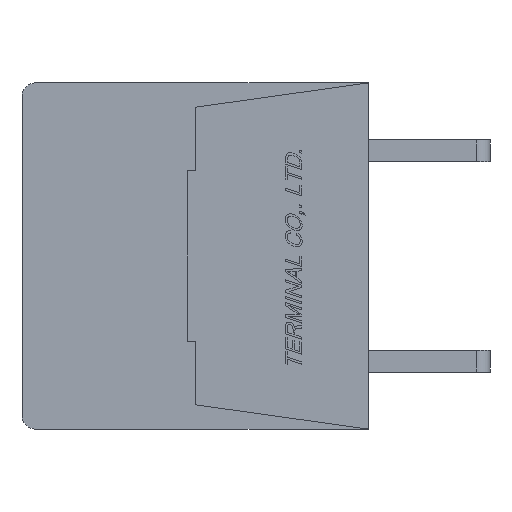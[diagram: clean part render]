
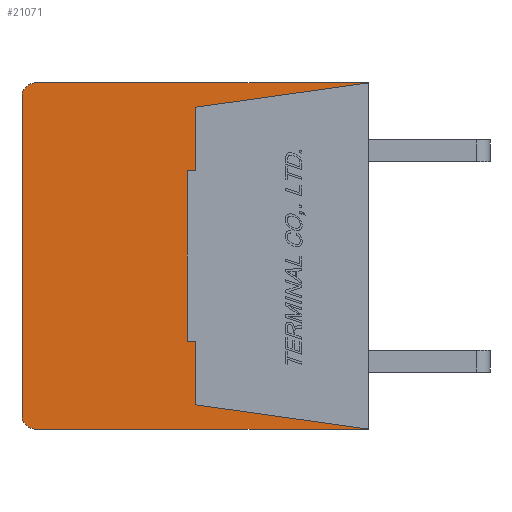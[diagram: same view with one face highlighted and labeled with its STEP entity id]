
A CAD part, left-side view. The second image highlights one B-rep face of the part: STEP entity #21071.
In plain terms, the highlighted planar face has unit normal (-1, 0, 0) as drawn and (1, 0, 0) by its records, which use the part's own axes.
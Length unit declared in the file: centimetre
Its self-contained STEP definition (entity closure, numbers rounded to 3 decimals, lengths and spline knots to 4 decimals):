
#1073=CIRCLE('',#35730,0.05);
#1074=CIRCLE('',#35731,0.05);
#1812=VERTEX_POINT('',#28837);
#1817=VERTEX_POINT('',#28850);
#1819=VERTEX_POINT('',#28856);
#1821=VERTEX_POINT('',#28862);
#1823=VERTEX_POINT('',#28868);
#1825=VERTEX_POINT('',#28874);
#1827=VERTEX_POINT('',#28880);
#1829=VERTEX_POINT('',#28886);
#2156=VERTEX_POINT('',#30340);
#2157=VERTEX_POINT('',#30342);
#2158=VERTEX_POINT('',#30344);
#2159=VERTEX_POINT('',#30346);
#4031=VECTOR('',#23905,1.);
#4034=VECTOR('',#23909,1.);
#4037=VECTOR('',#23913,1.);
#4040=VECTOR('',#23917,1.);
#4043=VECTOR('',#23921,1.);
#4046=VECTOR('',#23925,1.);
#4049=VECTOR('',#23929,1.);
#4435=VECTOR('',#24428,1.);
#4436=VECTOR('',#24431,1.);
#4437=VECTOR('',#24434,1.);
#6504=LINE('',#28855,#4031);
#6507=LINE('',#28861,#4034);
#6510=LINE('',#28867,#4037);
#6513=LINE('',#28873,#4040);
#6516=LINE('',#28879,#4043);
#6519=LINE('',#28885,#4046);
#6522=LINE('',#28890,#4049);
#6908=LINE('',#30339,#4435);
#6909=LINE('',#30343,#4436);
#6910=LINE('',#30347,#4437);
#9211=EDGE_CURVE('',#1819,#1817,#6504,.T.);
#9214=EDGE_CURVE('',#1821,#1819,#6507,.T.);
#9217=EDGE_CURVE('',#1823,#1821,#6510,.T.);
#9220=EDGE_CURVE('',#1825,#1823,#6513,.T.);
#9223=EDGE_CURVE('',#1827,#1825,#6516,.T.);
#9226=EDGE_CURVE('',#1829,#1827,#6519,.T.);
#9229=EDGE_CURVE('',#1812,#1829,#6522,.T.);
#9719=EDGE_CURVE('',#1817,#2156,#6908,.T.);
#9720=EDGE_CURVE('',#2157,#2156,#1073,.T.);
#9721=EDGE_CURVE('',#2157,#2158,#6909,.T.);
#9722=EDGE_CURVE('',#2159,#2158,#1074,.T.);
#9723=EDGE_CURVE('',#2159,#1812,#6910,.T.);
#14177=ORIENTED_EDGE('',*,*,#9211,.T.);
#14178=ORIENTED_EDGE('',*,*,#9719,.T.);
#14179=ORIENTED_EDGE('',*,*,#9720,.F.);
#14180=ORIENTED_EDGE('',*,*,#9721,.T.);
#14181=ORIENTED_EDGE('',*,*,#9722,.F.);
#14182=ORIENTED_EDGE('',*,*,#9723,.T.);
#14183=ORIENTED_EDGE('',*,*,#9229,.T.);
#14184=ORIENTED_EDGE('',*,*,#9226,.T.);
#14185=ORIENTED_EDGE('',*,*,#9223,.T.);
#14186=ORIENTED_EDGE('',*,*,#9220,.T.);
#14187=ORIENTED_EDGE('',*,*,#9217,.T.);
#14188=ORIENTED_EDGE('',*,*,#9214,.T.);
#18414=EDGE_LOOP('',(#14177,#14178,#14179,#14180,#14181,#14182,#14183,#14184,
#14185,#14186,#14187,#14188));
#19777=FACE_BOUND('',#18414,.T.);
#21071=ADVANCED_FACE('',(#19777),#22147,.F.);
#22147=PLANE('',#35729);
#23905=DIRECTION('',(0.,-0.99,-0.139));
#23909=DIRECTION('',(0.,0.,-1.));
#23913=DIRECTION('',(0.,-1.,0.));
#23917=DIRECTION('',(0.,0.,-1.));
#23921=DIRECTION('',(0.,1.,0.));
#23925=DIRECTION('',(0.,0.,-1.));
#23929=DIRECTION('',(0.,0.99,-0.139));
#24427=DIRECTION('',(-1.,0.,0.));
#24428=DIRECTION('',(0.,1.,0.));
#24429=DIRECTION('',(-1.,0.,0.));
#24430=DIRECTION('',(0.,0.,0.05));
#24431=DIRECTION('',(0.,0.,1.));
#24432=DIRECTION('',(-1.,0.,0.));
#24433=DIRECTION('',(0.,0.,0.05));
#24434=DIRECTION('',(0.,-1.,0.));
#28837=CARTESIAN_POINT('',(0.,0.,0.64));
#28850=CARTESIAN_POINT('',(0.,0.,-0.64));
#28855=CARTESIAN_POINT('',(0.,0.64,-0.55));
#28856=CARTESIAN_POINT('',(0.,0.64,-0.55));
#28861=CARTESIAN_POINT('',(0.,0.64,-0.315));
#28862=CARTESIAN_POINT('',(0.,0.64,-0.315));
#28867=CARTESIAN_POINT('',(0.,0.67,-0.315));
#28868=CARTESIAN_POINT('',(0.,0.67,-0.315));
#28873=CARTESIAN_POINT('',(0.,0.67,0.315));
#28874=CARTESIAN_POINT('',(0.,0.67,0.315));
#28879=CARTESIAN_POINT('',(0.,0.64,0.315));
#28880=CARTESIAN_POINT('',(0.,0.64,0.315));
#28885=CARTESIAN_POINT('',(0.,0.64,0.55));
#28886=CARTESIAN_POINT('',(0.,0.64,0.55));
#28890=CARTESIAN_POINT('',(0.,0.,0.64));
#30338=CARTESIAN_POINT('',(0.,0.6345,0.));
#30339=CARTESIAN_POINT('',(0.,0.,
-0.64));
#30340=CARTESIAN_POINT('',(0.,1.23,-0.64));
#30341=CARTESIAN_POINT('',(0.,1.23,-0.59));
#30342=CARTESIAN_POINT('',(0.,1.28,-0.59));
#30343=CARTESIAN_POINT('',(0.,1.28,-0.59));
#30344=CARTESIAN_POINT('',(0.,1.28,0.59));
#30345=CARTESIAN_POINT('',(0.,1.23,0.59));
#30346=CARTESIAN_POINT('',(0.,1.23,0.64));
#30347=CARTESIAN_POINT('',(0.,1.23,0.64));
#35729=AXIS2_PLACEMENT_3D('',#30338,#24427,$);
#35730=AXIS2_PLACEMENT_3D('',#30341,#24429,#24430);
#35731=AXIS2_PLACEMENT_3D('',#30345,#24432,#24433);
